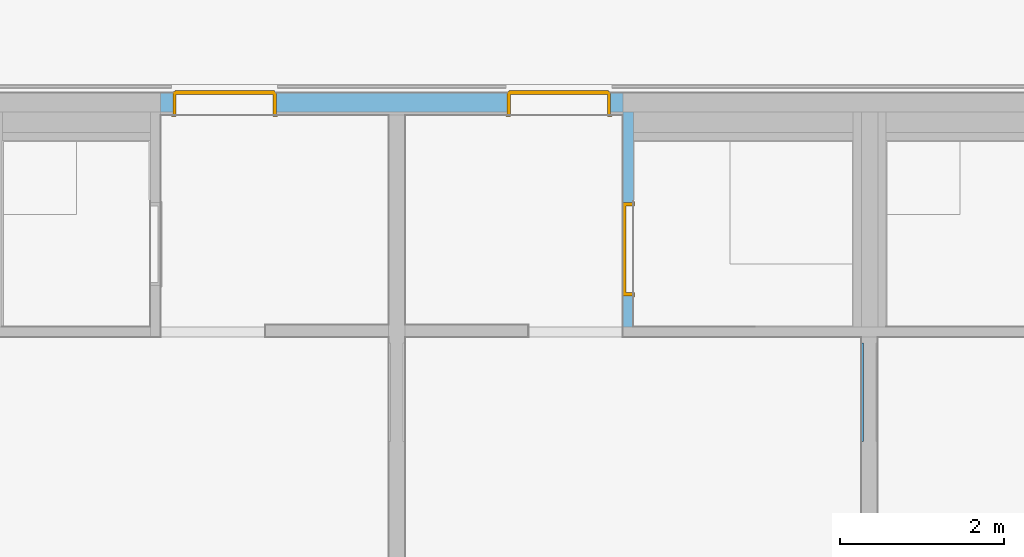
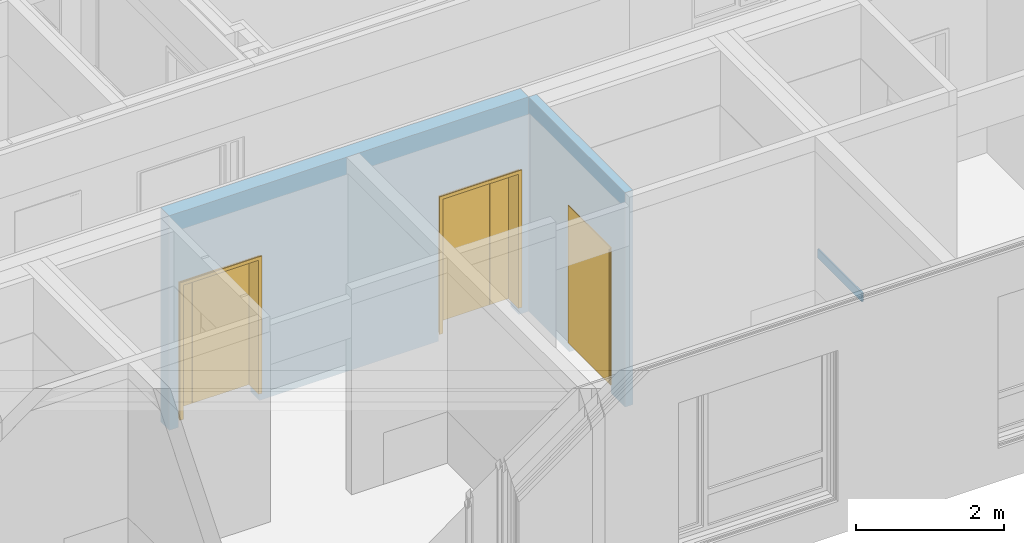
# One storey, part 61 of 222: 3 doors, 1 wall, 3 openings, plus 2 elements that do not belong to this part.
"""IFC4 building model written with IfcOpenShell, lengths in metres."""

from ifc_helpers import new_model, entity, si_unit, converted_unit, derived_unit, frame, frame_2d, origin, origin_with_axes, place, context, subcontext, project, spatial, polyline, rectangle, outline, extrude, faceted_brep, source, transform, mapped, material, type_object, element, fill, save


model = new_model("IFC4")

# Units and contexts
model_context = context("Model", 3, precision=1e-05, world=origin())
body_context = subcontext(model_context, "Body", "Model", "MODEL_VIEW")
ifc_project = project(units=[si_unit("LENGTHUNIT", "METRE"), si_unit("AREAUNIT", "SQUARE_METRE"), si_unit("VOLUMEUNIT", "CUBIC_METRE"), si_unit("MASSUNIT", "GRAM", prefix="KILO"), converted_unit("PLANEANGLEUNIT", "DEGREE", entity("IfcPlaneAngleMeasure", 0.0174532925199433), si_unit("PLANEANGLEUNIT", "RADIAN"), dimensions=[0, 0, 0, 0, 0, 0, 0]), derived_unit("THERMALTRANSMITTANCEUNIT", [(si_unit("POWERUNIT", "WATT"), 1), (si_unit("THERMODYNAMICTEMPERATUREUNIT", "KELVIN"), -1), (si_unit("LENGTHUNIT", "METRE"), -2)]), derived_unit("VOLUMETRICFLOWRATEUNIT", [(si_unit("LENGTHUNIT", "METRE"), 3), (converted_unit("TIMEUNIT", "hour", entity("IfcTimeMeasure", 3600.0), si_unit("TIMEUNIT", "SECOND"), dimensions=[0, 0, 1, 0, 0, 0, 0]), -1), (si_unit("LENGTHUNIT", "METRE"), -1)])], contexts=[model_context])

# Site, building, storey
site_placement = place(None, origin())
site = spatial("IfcSite", under=ifc_project, at=site_placement, Name="Psychiatrie Neubau Wunstorf", CompositionType="ELEMENT")
building_placement = place(site_placement, origin())
building = spatial("IfcBuilding", under=site, at=building_placement, Name="Neubau H2 Stationsgebäude", CompositionType="ELEMENT")
storey_placement = place(building_placement, frame((0.0, 0.0, 3.6)))
storey = spatial("IfcBuildingStorey", under=building, at=storey_placement, Name="H2 Ebene +1", CompositionType="ELEMENT", Elevation=3.6)

# Wall, opening, door
ifc_material_1 = material(Name="WI-LB")
wall_1_placement = place(storey_placement, frame((12.875, 1.48374963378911, 0.0), z_axis=(0.0, 0.0, 1.0), x_axis=(0.0, 1.0, 0.0)))
wall_1 = element("IfcWall", 1, at=wall_1_placement, inside=storey, material=ifc_material_1, context=body_context, shape_type="SweptSolid", body=[
    extrude(rectangle(XDim=2.61499999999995, YDim=0.125, at=frame_2d((1.30749999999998, 0.0625), x_axis=(1.0, 0.0))), origin_with_axes(), (0.0, 0.0, 1.0), 3.55),
])
opening_1_placement = place(wall_1_placement, frame((0.374999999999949, 0.0, 0.0), z_axis=(0.0, 1.0, 0.0), x_axis=(0.0, 0.0, 1.0)))
opening_1 = element("IfcOpeningElement", 2, at=opening_1_placement, cuts=wall_1, Name="Türöffnung", ObjectType="Opening", context=body_context, shape_type="SweptSolid", body=[
    extrude(outline(polyline([(2.41, 1.135), (2.41, 0.0), (0.0, 0.0), (0.0, 1.135), (2.41, 1.135)])), origin_with_axes(), (0.0, 0.0, 1.0), 0.125),
])
ifc_material_2 = material(Name="TI-1F-UZ-D-N")
door_type_1 = type_object("IfcDoorType", Name="SMT", OperationType="SINGLE_SWING_RIGHT", ParameterTakesPrecedence=False, PredefinedType="DOOR")
shared_shape_1 = source(origin_with_axes(), body_context, "Body", "Brep", [
    faceted_brep([(1.185, 0.0125000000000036, 0.0), (1.185, 0.112500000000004, 0.0), (1.135, 0.112500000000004, 0.0), (1.135, 0.0125000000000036, 0.0), (1.185, 0.112500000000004, 3.55), (1.185, 0.0125000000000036, 3.55), (1.135, 0.0125000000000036, 3.55), (1.135, 0.112500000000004, 3.55)], [[[0, 1, 2, 3]], [[4, 5, 6, 7]], [[1, 0, 5, 4]], [[2, 1, 4, 7]], [[3, 2, 7, 6]], [[0, 3, 6, 5]]], orient=[[False], [False], [False], [False], [False], [False]]),
    faceted_brep([(0.0, 0.0125000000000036, 0.0), (0.0, 0.112500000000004, 0.0), (-0.0500000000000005, 0.112500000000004, 0.0), (-0.0500000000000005, 0.0125000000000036, 0.0), (0.0, 0.112500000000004, 3.55), (0.0, 0.0125000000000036, 3.55), (-0.0500000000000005, 0.0125000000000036, 3.55), (-0.0500000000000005, 0.112500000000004, 3.55)], [[[0, 1, 2, 3]], [[4, 5, 6, 7]], [[1, 0, 5, 4]], [[2, 1, 4, 7]], [[3, 2, 7, 6]], [[0, 3, 6, 5]]], orient=[[False], [False], [False], [False], [False], [False]]),
    faceted_brep([(1.135, 0.0125000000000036, 2.41), (1.135, 0.112500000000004, 2.41), (0.0, 0.112500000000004, 2.41), (0.0, 0.0125000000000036, 2.41), (1.135, 0.112500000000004, 2.46), (1.135, 0.0125000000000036, 2.46), (0.0, 0.0125000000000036, 2.46), (0.0, 0.112500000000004, 2.46)], [[[0, 1, 2, 3]], [[4, 5, 6, 7]], [[1, 0, 5, 4]], [[2, 1, 4, 7]], [[3, 2, 7, 6]], [[0, 3, 6, 5]]], orient=[[False], [False], [False], [False], [False], [False]]),
])
shared_shape_2 = source(origin_with_axes(), body_context, "Body", "Brep", [
    faceted_brep([(1.135, -0.0149999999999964, 2.41), (1.135, -0.0149999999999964, 0.15), (1.095, -0.0149999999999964, 0.15), (1.095, -0.0149999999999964, 2.41), (1.135, 0.140000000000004, 0.15), (1.135, 0.140000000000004, 2.41), (1.095, 0.140000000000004, 2.41), (1.095, 0.140000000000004, 0.15)], [[[0, 1, 2, 3]], [[4, 5, 6, 7]], [[1, 0, 5, 4]], [[2, 1, 4, 7]], [[3, 2, 7, 6]], [[0, 3, 6, 5]]], orient=[[False], [False], [False], [False], [False], [False]]),
    faceted_brep([(1.135, -0.0149999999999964, 2.425), (1.15, -0.0149999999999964, 2.425), (1.15, -0.0149999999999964, 0.15), (1.135, -0.0149999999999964, 0.15), (1.135, 0.0, 0.15), (1.15, 0.0, 0.15), (1.15, 0.0, 2.425), (1.135, 0.0, 2.425)], [[[0, 1, 2, 3]], [[4, 5, 6, 7]], [[3, 4, 7, 0]], [[2, 5, 4, 3]], [[1, 6, 5, 2]], [[0, 7, 6, 1]]], orient=[[False], [False], [False], [False], [False], [False]]),
    faceted_brep([(1.135, 0.125000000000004, 2.425), (1.15, 0.125000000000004, 2.425), (1.15, 0.125000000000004, 0.15), (1.135, 0.125000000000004, 0.15), (1.135, 0.140000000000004, 0.15), (1.15, 0.140000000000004, 0.15), (1.15, 0.140000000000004, 2.425), (1.135, 0.140000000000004, 2.425)], [[[0, 1, 2, 3]], [[4, 5, 6, 7]], [[3, 4, 7, 0]], [[2, 5, 4, 3]], [[1, 6, 5, 2]], [[0, 7, 6, 1]]], orient=[[False], [False], [False], [False], [False], [False]]),
    faceted_brep([(0.0399999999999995, -0.0149999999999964, 2.41), (0.0399999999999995, -0.0149999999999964, 0.15), (0.0, -0.0149999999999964, 0.15), (0.0, -0.0149999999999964, 2.41), (0.0399999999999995, 0.140000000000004, 0.15), (0.0399999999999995, 0.140000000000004, 2.41), (0.0, 0.140000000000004, 2.41), (0.0, 0.140000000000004, 0.15)], [[[0, 1, 2, 3]], [[4, 5, 6, 7]], [[1, 0, 5, 4]], [[2, 1, 4, 7]], [[3, 2, 7, 6]], [[0, 3, 6, 5]]], orient=[[False], [False], [False], [False], [False], [False]]),
    faceted_brep([(0.0, -0.0149999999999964, 2.425), (0.0, -0.0149999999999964, 0.15), (-0.0150000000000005, -0.0149999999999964, 0.15), (-0.0150000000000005, -0.0149999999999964, 2.425), (0.0, 0.0, 0.15), (0.0, 0.0, 2.425), (-0.0150000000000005, 0.0, 2.425), (-0.0150000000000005, 0.0, 0.15)], [[[0, 1, 2, 3]], [[4, 5, 6, 7]], [[1, 0, 5, 4]], [[2, 1, 4, 7]], [[3, 2, 7, 6]], [[0, 3, 6, 5]]], orient=[[False], [False], [False], [False], [False], [False]]),
    faceted_brep([(0.0, 0.125000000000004, 2.425), (0.0, 0.125000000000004, 0.15), (-0.0150000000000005, 0.125000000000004, 0.15), (-0.0150000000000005, 0.125000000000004, 2.425), (0.0, 0.140000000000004, 0.15), (0.0, 0.140000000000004, 2.425), (-0.0150000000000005, 0.140000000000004, 2.425), (-0.0150000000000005, 0.140000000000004, 0.15)], [[[0, 1, 2, 3]], [[4, 5, 6, 7]], [[1, 0, 5, 4]], [[2, 1, 4, 7]], [[3, 2, 7, 6]], [[0, 3, 6, 5]]], orient=[[False], [False], [False], [False], [False], [False]]),
    faceted_brep([(1.095, -0.0149999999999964, 2.41), (1.095, -0.0149999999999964, 2.37), (0.0399999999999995, -0.0149999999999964, 2.37), (0.0399999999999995, -0.0149999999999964, 2.41), (1.095, 0.140000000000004, 2.37), (1.095, 0.140000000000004, 2.41), (0.0399999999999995, 0.140000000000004, 2.41), (0.0399999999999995, 0.140000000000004, 2.37)], [[[0, 1, 2, 3]], [[4, 5, 6, 7]], [[1, 0, 5, 4]], [[2, 1, 4, 7]], [[3, 2, 7, 6]], [[0, 3, 6, 5]]], orient=[[False], [False], [False], [False], [False], [False]]),
    faceted_brep([(1.135, -0.0149999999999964, 2.425), (1.135, -0.0149999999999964, 2.41), (0.0, -0.0149999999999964, 2.41), (0.0, -0.0149999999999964, 2.425), (1.135, 0.0, 2.41), (1.135, 0.0, 2.425), (0.0, 0.0, 2.425), (0.0, 0.0, 2.41)], [[[0, 1, 2, 3]], [[4, 5, 6, 7]], [[1, 0, 5, 4]], [[2, 1, 4, 7]], [[3, 2, 7, 6]], [[0, 3, 6, 5]]], orient=[[False], [False], [False], [False], [False], [False]]),
    faceted_brep([(1.135, 0.125000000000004, 2.425), (1.135, 0.125000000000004, 2.41), (0.0, 0.125000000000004, 2.41), (0.0, 0.125000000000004, 2.425), (1.135, 0.140000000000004, 2.41), (1.135, 0.140000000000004, 2.425), (0.0, 0.140000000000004, 2.425), (0.0, 0.140000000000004, 2.41)], [[[0, 1, 2, 3]], [[4, 5, 6, 7]], [[1, 0, 5, 4]], [[2, 1, 4, 7]], [[3, 2, 7, 6]], [[0, 3, 6, 5]]], orient=[[False], [False], [False], [False], [False], [False]]),
    faceted_brep([(1.11, 0.0910000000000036, 2.385), (1.11, 0.0910000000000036, 0.15), (0.0249999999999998, 0.0910000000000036, 0.15), (0.0249999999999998, 0.0910000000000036, 2.385), (1.11, 0.141000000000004, 0.15), (1.11, 0.141000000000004, 2.385), (0.0249999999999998, 0.141000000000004, 2.385), (0.0249999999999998, 0.141000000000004, 0.15)], [[[0, 1, 2, 3]], [[4, 5, 6, 7]], [[1, 0, 5, 4]], [[2, 1, 4, 7]], [[3, 2, 7, 6]], [[0, 3, 6, 5]]], orient=[[False], [False], [False], [False], [False], [False]]),
])
door_1_placement = place(opening_1_placement, frame((0.0, 0.0, 0.0), z_axis=(1.0, 0.0, 0.0), x_axis=(0.0, 1.0, 0.0)))
door_1 = element("IfcDoor", 3, at=door_1_placement, inside=storey, type_object=door_type_1, material=ifc_material_2, Name="SMT", OverallHeight=2.41, OverallWidth=1.135, context=body_context, shape_type="MappedRepresentation", body=[
    mapped(shared_shape_1, transform((0.0, 0.0, 0.0), x_axis=(1.0, 0.0, 0.0), y_axis=(0.0, 1.0, 0.0), z_axis=(0.0, 0.0, 1.0), scale=1.0)),
    mapped(shared_shape_2, transform((0.0, 0.0, 0.0), x_axis=(1.0, 0.0, 0.0), y_axis=(0.0, 1.0, 0.0), z_axis=(0.0, 0.0, 1.0), scale=1.0)),
])
fill(opening_1, door_1)

# Wall, openings, doors
ifc_material_3 = material(Name="WI-HW 60")
wall_2_placement = place(storey_placement, frame((12.75, 4.33074963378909, 0.0), z_axis=(0.0, 0.0, 1.0), x_axis=(-1.0, 1.13181562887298e-15, 0.0)))
wall_2 = element("IfcWall", 4, at=wall_2_placement, inside=storey, material=ifc_material_3, context=body_context, shape_type="SweptSolid", body=[
    extrude(rectangle(XDim=5.625, YDim=0.232, at=frame_2d((2.8125, 0.116), x_axis=(1.0, 0.0))), origin_with_axes(), (0.0, 0.0, 1.0), 3.55),
])
opening_2_placement = place(wall_2_placement, frame((0.15, 0.0, 0.0), z_axis=(-1.1025663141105e-15, 1.0, 0.0), x_axis=(0.0, 0.0, 1.0)))
opening_2 = element("IfcOpeningElement", 5, at=opening_2_placement, cuts=wall_2, Name="Türöffnung", ObjectType="Opening", context=body_context, shape_type="SweptSolid", body=[
    extrude(outline(polyline([(2.41, 1.26), (2.41, 0.0), (0.0, 0.0), (0.0, 1.26), (2.41, 1.26)])), origin_with_axes(), (0.0, 0.0, 1.0), 0.232),
])
opening_3_placement = place(wall_2_placement, frame((4.215, 0.0, 0.0), z_axis=(0.0, 1.0, 0.0), x_axis=(0.0, 0.0, 1.0)))
opening_3 = element("IfcOpeningElement", 6, at=opening_3_placement, cuts=wall_2, Name="Türöffnung", ObjectType="Opening", context=body_context, shape_type="SweptSolid", body=[
    extrude(outline(polyline([(2.41, 1.26), (2.41, 0.0), (0.0, 0.0), (0.0, 1.26), (2.41, 1.26)])), origin_with_axes(), (0.0, 0.0, 1.0), 0.232),
])
ifc_material_4 = material(Name="TI-2F-UZ-D")
door_type_2 = type_object("IfcDoorType", Name="SMT", OperationType="DOUBLE_DOOR_SINGLE_SWING", ParameterTakesPrecedence=False, PredefinedType="DOOR")
shared_shape_3 = source(origin_with_axes(), body_context, "Body", "Brep", [
    faceted_brep([(0.0, -0.0150000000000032, 2.41), (0.04, -0.0150000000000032, 2.41), (0.04, -0.0150000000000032, 0.15), (0.0, -0.0150000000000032, 0.15), (0.0, 0.287, 0.15), (0.04, 0.287, 0.15), (0.04, 0.287, 2.41), (0.0, 0.287, 2.41)], [[[0, 1, 2, 3]], [[4, 5, 6, 7]], [[3, 4, 7, 0]], [[2, 5, 4, 3]], [[1, 6, 5, 2]], [[0, 7, 6, 1]]], orient=[[False], [False], [False], [False], [False], [False]]),
    faceted_brep([(0.0, -0.0150000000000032, 2.425), (0.0, -0.0150000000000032, 0.15), (-0.015, -0.0150000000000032, 0.15), (-0.015, -0.0150000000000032, 2.425), (0.0, 0.0, 0.15), (0.0, 0.0, 2.425), (-0.015, 0.0, 2.425), (-0.015, 0.0, 0.15)], [[[0, 1, 2, 3]], [[4, 5, 6, 7]], [[1, 0, 5, 4]], [[2, 1, 4, 7]], [[3, 2, 7, 6]], [[0, 3, 6, 5]]], orient=[[False], [False], [False], [False], [False], [False]]),
    faceted_brep([(0.0, 0.272, 2.425), (0.0, 0.272, 0.15), (-0.015, 0.272, 0.15), (-0.015, 0.272, 2.425), (0.0, 0.287, 0.15), (0.0, 0.287, 2.425), (-0.015, 0.287, 2.425), (-0.015, 0.287, 0.15)], [[[0, 1, 2, 3]], [[4, 5, 6, 7]], [[1, 0, 5, 4]], [[2, 1, 4, 7]], [[3, 2, 7, 6]], [[0, 3, 6, 5]]], orient=[[False], [False], [False], [False], [False], [False]]),
    faceted_brep([(1.22, -0.0150000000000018, 2.41), (1.26, -0.0150000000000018, 2.41), (1.26, -0.0150000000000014, 0.15), (1.22, -0.0150000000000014, 0.15), (1.22, 0.287000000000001, 0.15), (1.26, 0.287000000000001, 0.15), (1.26, 0.287000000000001, 2.41), (1.22, 0.287000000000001, 2.41)], [[[0, 1, 2, 3]], [[4, 5, 6, 7]], [[3, 4, 7, 0]], [[2, 5, 4, 3]], [[1, 6, 5, 2]], [[0, 7, 6, 1]]], orient=[[False], [False], [False], [False], [False], [False]]),
    faceted_brep([(1.26, -0.0150000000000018, 2.425), (1.275, -0.0150000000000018, 2.425), (1.275, -0.0150000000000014, 0.15), (1.26, -0.0150000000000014, 0.15), (1.26, 0.0, 0.15), (1.275, 0.0, 0.15), (1.275, 0.0, 2.425), (1.26, 0.0, 2.425)], [[[0, 1, 2, 3]], [[4, 5, 6, 7]], [[3, 4, 7, 0]], [[2, 5, 4, 3]], [[1, 6, 5, 2]], [[0, 7, 6, 1]]], orient=[[False], [False], [False], [False], [False], [False]]),
    faceted_brep([(1.26, 0.272, 2.425), (1.275, 0.272, 2.425), (1.275, 0.272000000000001, 0.15), (1.26, 0.272000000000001, 0.15), (1.26, 0.287000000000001, 0.15), (1.275, 0.287000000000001, 0.15), (1.275, 0.287000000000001, 2.425), (1.26, 0.287000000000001, 2.425)], [[[0, 1, 2, 3]], [[4, 5, 6, 7]], [[3, 4, 7, 0]], [[2, 5, 4, 3]], [[1, 6, 5, 2]], [[0, 7, 6, 1]]], orient=[[False], [False], [False], [False], [False], [False]]),
    faceted_brep([(0.04, -0.0150000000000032, 2.41), (1.22, -0.0150000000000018, 2.41), (1.22, -0.0150000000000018, 2.37), (0.04, -0.0150000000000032, 2.37), (0.04, 0.287, 2.37), (1.22, 0.287000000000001, 2.37), (1.22, 0.287000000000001, 2.41), (0.04, 0.287, 2.41)], [[[0, 1, 2, 3]], [[4, 5, 6, 7]], [[3, 4, 7, 0]], [[2, 5, 4, 3]], [[1, 6, 5, 2]], [[0, 7, 6, 1]]], orient=[[False], [False], [False], [False], [False], [False]]),
    faceted_brep([(0.0, -0.0150000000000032, 2.425), (1.26, -0.0150000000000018, 2.425), (1.26, -0.0150000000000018, 2.41), (0.0, -0.0150000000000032, 2.41), (0.0, 0.0, 2.41), (1.26, 0.0, 2.41), (1.26, 0.0, 2.425), (0.0, 0.0, 2.425)], [[[0, 1, 2, 3]], [[4, 5, 6, 7]], [[3, 4, 7, 0]], [[2, 5, 4, 3]], [[1, 6, 5, 2]], [[0, 7, 6, 1]]], orient=[[False], [False], [False], [False], [False], [False]]),
    faceted_brep([(0.0, 0.272, 2.425), (1.26, 0.272, 2.425), (1.26, 0.272, 2.41), (0.0, 0.272, 2.41), (0.0, 0.287, 2.41), (1.26, 0.287000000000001, 2.41), (1.26, 0.287000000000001, 2.425), (0.0, 0.287, 2.425)], [[[0, 1, 2, 3]], [[4, 5, 6, 7]], [[3, 4, 7, 0]], [[2, 5, 4, 3]], [[1, 6, 5, 2]], [[0, 7, 6, 1]]], orient=[[False], [False], [False], [False], [False], [False]]),
    faceted_brep([(0.025, 0.252, 2.385), (0.925, 0.252, 2.385), (0.925, 0.252, 0.15), (0.025, 0.252, 0.15), (0.025, 0.302, 0.15), (0.925, 0.302, 0.15), (0.925, 0.302, 2.385), (0.025, 0.302, 2.385)], [[[0, 1, 2, 3]], [[4, 5, 6, 7]], [[3, 4, 7, 0]], [[2, 5, 4, 3]], [[1, 6, 5, 2]], [[0, 7, 6, 1]]], orient=[[False], [False], [False], [False], [False], [False]]),
    faceted_brep([(0.926, 0.252, 2.385), (1.235, 0.252, 2.385), (1.235, 0.252000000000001, 0.15), (0.926, 0.252, 0.15), (0.926, 0.302, 0.15), (1.235, 0.302000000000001, 0.15), (1.235, 0.302000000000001, 2.385), (0.926, 0.302, 2.385)], [[[0, 1, 2, 3]], [[4, 5, 6, 7]], [[3, 4, 7, 0]], [[2, 5, 4, 3]], [[1, 6, 5, 2]], [[0, 7, 6, 1]]], orient=[[False], [False], [False], [False], [False], [False]]),
])
door_2_placement = place(opening_2_placement, frame((0.0, 1.26, 0.271999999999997), z_axis=(1.0, 0.0, 0.0), x_axis=(0.0, -1.0, 1.41439306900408e-15)))
door_2 = element("IfcDoor", 7, at=door_2_placement, inside=storey, type_object=door_type_2, material=ifc_material_4, Name="SMT", OverallHeight=2.41, OverallWidth=1.26, context=body_context, shape_type="MappedRepresentation", body=[
    mapped(shared_shape_3, transform((0.0, 0.0, 0.0), x_axis=(1.0, 0.0, 0.0), y_axis=(0.0, 1.0, 0.0), z_axis=(0.0, 0.0, 1.0), scale=1.0)),
])
fill(opening_2, door_2)
ifc_material_5 = material(Name="TI-2F-UZ-D")
door_type_3 = type_object("IfcDoorType", Name="SMT", OperationType="DOUBLE_DOOR_SINGLE_SWING", ParameterTakesPrecedence=False, PredefinedType="DOOR")
shared_shape_4 = source(origin_with_axes(), body_context, "Body", "Brep", [
    faceted_brep([(1.26, -0.0150000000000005, 2.41), (1.26, -0.0150000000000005, 0.15), (1.22, -0.0150000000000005, 0.15), (1.22, -0.0150000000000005, 2.41), (1.26, 0.287000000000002, 0.15), (1.26, 0.287000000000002, 2.41), (1.22, 0.287000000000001, 2.41), (1.22, 0.287000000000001, 0.15)], [[[0, 1, 2, 3]], [[4, 5, 6, 7]], [[1, 0, 5, 4]], [[2, 1, 4, 7]], [[3, 2, 7, 6]], [[0, 3, 6, 5]]], orient=[[False], [False], [False], [False], [False], [False]]),
    faceted_brep([(1.26, -0.0150000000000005, 2.425), (1.275, -0.0150000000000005, 2.425), (1.275, -0.0150000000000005, 0.15), (1.26, -0.0150000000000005, 0.15), (1.26, 0.0, 0.15), (1.275, 0.0, 0.15), (1.275, 0.0, 2.425), (1.26, 0.0, 2.425)], [[[0, 1, 2, 3]], [[4, 5, 6, 7]], [[3, 4, 7, 0]], [[2, 5, 4, 3]], [[1, 6, 5, 2]], [[0, 7, 6, 1]]], orient=[[False], [False], [False], [False], [False], [False]]),
    faceted_brep([(1.26, 0.272000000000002, 2.425), (1.275, 0.272000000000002, 2.425), (1.275, 0.272000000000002, 0.15), (1.26, 0.272000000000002, 0.15), (1.26, 0.287000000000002, 0.15), (1.275, 0.287000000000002, 0.15), (1.275, 0.287000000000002, 2.425), (1.26, 0.287000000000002, 2.425)], [[[0, 1, 2, 3]], [[4, 5, 6, 7]], [[3, 4, 7, 0]], [[2, 5, 4, 3]], [[1, 6, 5, 2]], [[0, 7, 6, 1]]], orient=[[False], [False], [False], [False], [False], [False]]),
    faceted_brep([(0.0399999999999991, -0.0150000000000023, 2.41), (0.0399999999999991, -0.0150000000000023, 0.15), (0.0, -0.0150000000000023, 0.15), (0.0, -0.0150000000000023, 2.41), (0.0399999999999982, 0.287, 0.15), (0.0399999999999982, 0.287, 2.41), (0.0, 0.287, 2.41), (0.0, 0.287, 0.15)], [[[0, 1, 2, 3]], [[4, 5, 6, 7]], [[1, 0, 5, 4]], [[2, 1, 4, 7]], [[3, 2, 7, 6]], [[0, 3, 6, 5]]], orient=[[False], [False], [False], [False], [False], [False]]),
    faceted_brep([(0.0, -0.0150000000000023, 2.425), (0.0, -0.0150000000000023, 0.15), (-0.0150000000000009, -0.0150000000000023, 0.15), (-0.0150000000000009, -0.0150000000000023, 2.425), (0.0, 0.0, 0.15), (0.0, 0.0, 2.425), (-0.0150000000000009, 0.0, 2.425), (-0.0150000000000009, 0.0, 0.15)], [[[0, 1, 2, 3]], [[4, 5, 6, 7]], [[1, 0, 5, 4]], [[2, 1, 4, 7]], [[3, 2, 7, 6]], [[0, 3, 6, 5]]], orient=[[False], [False], [False], [False], [False], [False]]),
    faceted_brep([(0.0, 0.272, 2.425), (0.0, 0.272, 0.15), (-0.0150000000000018, 0.272, 0.15), (-0.0150000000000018, 0.272, 2.425), (0.0, 0.287, 0.15), (0.0, 0.287, 2.425), (-0.0150000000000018, 0.287, 2.425), (-0.0150000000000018, 0.287, 0.15)], [[[0, 1, 2, 3]], [[4, 5, 6, 7]], [[1, 0, 5, 4]], [[2, 1, 4, 7]], [[3, 2, 7, 6]], [[0, 3, 6, 5]]], orient=[[False], [False], [False], [False], [False], [False]]),
    faceted_brep([(1.22, -0.0150000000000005, 2.41), (1.22, -0.0150000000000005, 2.37), (0.0399999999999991, -0.0150000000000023, 2.37), (0.0399999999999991, -0.0150000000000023, 2.41), (1.22, 0.287000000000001, 2.37), (1.22, 0.287000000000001, 2.41), (0.0399999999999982, 0.287, 2.41), (0.0399999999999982, 0.287, 2.37)], [[[0, 1, 2, 3]], [[4, 5, 6, 7]], [[1, 0, 5, 4]], [[2, 1, 4, 7]], [[3, 2, 7, 6]], [[0, 3, 6, 5]]], orient=[[False], [False], [False], [False], [False], [False]]),
    faceted_brep([(1.26, -0.0150000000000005, 2.425), (1.26, -0.0150000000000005, 2.41), (0.0, -0.0150000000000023, 2.41), (0.0, -0.0150000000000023, 2.425), (1.26, 0.0, 2.41), (1.26, 0.0, 2.425), (0.0, 0.0, 2.425), (0.0, 0.0, 2.41)], [[[0, 1, 2, 3]], [[4, 5, 6, 7]], [[1, 0, 5, 4]], [[2, 1, 4, 7]], [[3, 2, 7, 6]], [[0, 3, 6, 5]]], orient=[[False], [False], [False], [False], [False], [False]]),
    faceted_brep([(1.26, 0.272000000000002, 2.425), (1.26, 0.272000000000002, 2.41), (0.0, 0.272, 2.41), (0.0, 0.272, 2.425), (1.26, 0.287000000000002, 2.41), (1.26, 0.287000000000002, 2.425), (0.0, 0.287, 2.425), (0.0, 0.287, 2.41)], [[[0, 1, 2, 3]], [[4, 5, 6, 7]], [[1, 0, 5, 4]], [[2, 1, 4, 7]], [[3, 2, 7, 6]], [[0, 3, 6, 5]]], orient=[[False], [False], [False], [False], [False], [False]]),
    faceted_brep([(1.235, 0.252000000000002, 2.385), (1.235, 0.252000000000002, 0.15), (0.334999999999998, 0.252, 0.15), (0.334999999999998, 0.252, 2.385), (1.235, 0.302000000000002, 0.15), (1.235, 0.302000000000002, 2.385), (0.334999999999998, 0.302, 2.385), (0.334999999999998, 0.302, 0.15)], [[[0, 1, 2, 3]], [[4, 5, 6, 7]], [[1, 0, 5, 4]], [[2, 1, 4, 7]], [[3, 2, 7, 6]], [[0, 3, 6, 5]]], orient=[[False], [False], [False], [False], [False], [False]]),
    faceted_brep([(0.333999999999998, 0.252, 2.385), (0.333999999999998, 0.252, 0.15), (0.0249999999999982, 0.252, 0.15), (0.0249999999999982, 0.252, 2.385), (0.333999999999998, 0.302, 0.15), (0.333999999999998, 0.302, 2.385), (0.0249999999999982, 0.302, 2.385), (0.0249999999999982, 0.302, 0.15)], [[[0, 1, 2, 3]], [[4, 5, 6, 7]], [[1, 0, 5, 4]], [[2, 1, 4, 7]], [[3, 2, 7, 6]], [[0, 3, 6, 5]]], orient=[[False], [False], [False], [False], [False], [False]]),
])
door_3_placement = place(opening_3_placement, frame((0.0, 1.26, 0.271999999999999), z_axis=(1.0, 0.0, 0.0), x_axis=(0.0, -1.0, 3.11826754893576e-16)))
door_3 = element("IfcDoor", 8, at=door_3_placement, inside=storey, type_object=door_type_3, material=ifc_material_5, Name="SMT", OverallHeight=2.41, OverallWidth=1.26, context=body_context, shape_type="MappedRepresentation", body=[
    mapped(shared_shape_4, transform((0.0, 0.0, 0.0), x_axis=(1.0, 0.0, 0.0), y_axis=(0.0, 1.0, 0.0), z_axis=(0.0, 0.0, 1.0), scale=1.0)),
])
fill(opening_3, door_3)

# Wall
wall_3_placement = place(storey_placement, frame((15.65, 0.0854496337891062, 1.575)))
element("IfcWall", 9, at=wall_3_placement, inside=storey, Name="WV 1.1", context=body_context, shape_type="Brep", body=[
    faceted_brep([(0.025, 1.2, 0.0), (0.0, 1.2, 0.0), (0.0, 0.0, 0.0), (0.025, 0.0, 0.0), (0.0, 1.2, 0.15), (0.025, 1.2, 0.15), (0.025, 0.0, 0.15), (0.0, 0.0, 0.15)], [[[0, 1, 2, 3]], [[4, 5, 6, 7]], [[1, 0, 5, 4]], [[2, 1, 4, 7]], [[3, 2, 7, 6]], [[0, 3, 6, 5]]], orient=[[False], [False], [False], [False], [False], [False]]),
])

save(model, "model.ifc")
